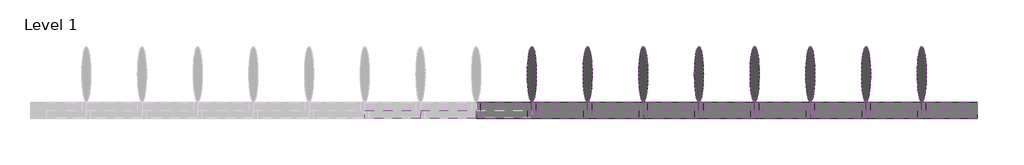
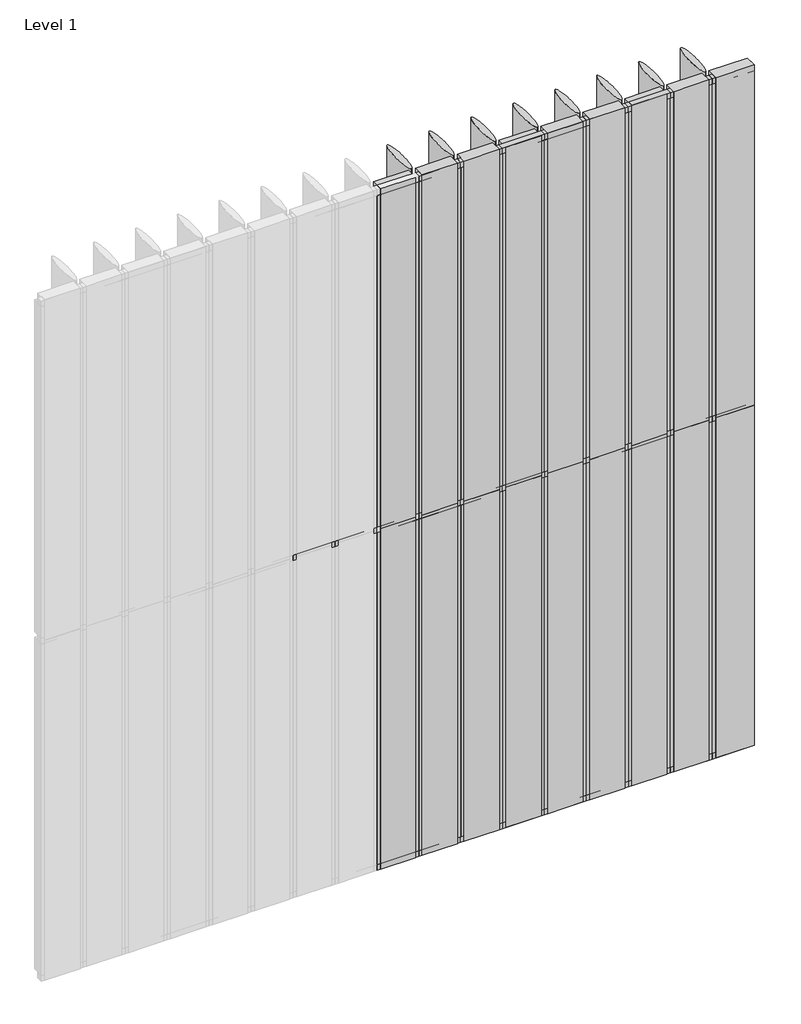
# One storey, part 2 of 2: 43 members, 36 plates.
"""IFC4 building model written with IfcOpenShell, lengths in millimetres."""

from ifc_helpers import new_model, si_unit, origin, place, context, project, spatial, transform, mapped, element, save
from components import rectangular_mullion_7b7f291e, rectangular_mullion_98250b89, rectangular_mullion_795f5a7c, rectangular_mullion_94c598e1, empty_system_panel_empty_f688b100, empty_system_panel_empty_d6a9d873, empty_system_panel_empty_5c88f992

model = new_model("IFC4")

# Units and contexts
model_context = context("Model", 3, world=origin())
ifc_project = project(units=[si_unit("LENGTHUNIT", "METRE", prefix="MILLI")], contexts=[model_context])

# Site, building, storey
site = spatial("IfcSite", under=ifc_project)
building = spatial("IfcBuilding", under=site)
storey = spatial("IfcBuildingStorey", under=building, Name="Level 1", Elevation=0.0)

# Members
placement = place(None, origin())
rectangular_mullion_shape = rectangular_mullion_7b7f291e(model_context)
element("IfcMember", 1, ObjectType="Rectangular Mullion : RSen_21_CWM_blade - 350 ellips - 0°_gen_duco projects", at=placement, inside=storey, context=model_context, shape_type="MappedRepresentation", body=[
    mapped(rectangular_mullion_shape, transform((5650.0, 3000.0, 0.0), x_axis=(-1.0, 0.0, 0.0), y_axis=(0.0, 1.0, 0.0), z_axis=(0.0, 0.0, -1.0))),
])
element("IfcMember", 2, ObjectType="Rectangular Mullion : RSen_21_CWM_blade - 350 ellips - 0°_gen_duco projects", at=placement, inside=storey, context=model_context, shape_type="MappedRepresentation", body=[
    mapped(rectangular_mullion_shape, transform((5300.0, 3000.0, 0.0), x_axis=(-1.0, 0.0, 0.0), y_axis=(0.0, 1.0, 0.0), z_axis=(0.0, 0.0, -1.0))),
])
element("IfcMember", 3, ObjectType="Rectangular Mullion : RSen_21_CWM_blade - 350 ellips - 0°_gen_duco projects", at=placement, inside=storey, context=model_context, shape_type="MappedRepresentation", body=[
    mapped(rectangular_mullion_shape, transform((4950.0, 3000.0, 0.0), x_axis=(-1.0, 0.0, 0.0), y_axis=(0.0, 1.0, 0.0), z_axis=(0.0, 0.0, -1.0))),
])
element("IfcMember", 4, ObjectType="Rectangular Mullion : RSen_21_CWM_blade - 350 ellips - 0°_gen_duco projects", at=placement, inside=storey, context=model_context, shape_type="MappedRepresentation", body=[
    mapped(rectangular_mullion_shape, transform((4600.0, 3000.0, 0.0), x_axis=(-1.0, 0.0, 0.0), y_axis=(0.0, 1.0, 0.0), z_axis=(0.0, 0.0, -1.0))),
])
element("IfcMember", 5, ObjectType="Rectangular Mullion : RSen_21_CWM_blade - 350 ellips - 0°_gen_duco projects", at=placement, inside=storey, context=model_context, shape_type="MappedRepresentation", body=[
    mapped(rectangular_mullion_shape, transform((4250.0, 3000.0, 0.0), x_axis=(-1.0, 0.0, 0.0), y_axis=(0.0, 1.0, 0.0), z_axis=(0.0, 0.0, -1.0))),
])
element("IfcMember", 6, ObjectType="Rectangular Mullion : RSen_21_CWM_blade - 350 ellips - 0°_gen_duco projects", at=placement, inside=storey, context=model_context, shape_type="MappedRepresentation", body=[
    mapped(rectangular_mullion_shape, transform((3900.0, 3000.0, 0.0), x_axis=(-1.0, 0.0, 0.0), y_axis=(0.0, 1.0, 0.0), z_axis=(0.0, 0.0, -1.0))),
])
element("IfcMember", 7, ObjectType="Rectangular Mullion : RSen_21_CWM_blade - 350 ellips - 0°_gen_duco projects", at=placement, inside=storey, context=model_context, shape_type="MappedRepresentation", body=[
    mapped(rectangular_mullion_shape, transform((3550.0, 3000.0, 0.0), x_axis=(-1.0, 0.0, 0.0), y_axis=(0.0, 1.0, 0.0), z_axis=(0.0, 0.0, -1.0))),
])
element("IfcMember", 8, ObjectType="Rectangular Mullion : RSen_21_CWM_blade - 350 ellips - 0°_gen_duco projects", at=placement, inside=storey, context=model_context, shape_type="MappedRepresentation", body=[
    mapped(rectangular_mullion_shape, transform((3200.0, 3000.0, 0.0), x_axis=(-1.0, 0.0, 0.0), y_axis=(0.0, 1.0, 0.0), z_axis=(0.0, 0.0, -1.0))),
])
element("IfcMember", 9, ObjectType="Rectangular Mullion : RSen_21_CWM_blade - 350 ellips - 0°_gen_duco projects", at=placement, inside=storey, context=model_context, shape_type="MappedRepresentation", body=[
    mapped(rectangular_mullion_shape, transform((5650.0, 3000.0, 3000.0), x_axis=(-1.0, 0.0, 0.0), y_axis=(0.0, 1.0, 0.0), z_axis=(0.0, 0.0, -1.0))),
])
element("IfcMember", 10, ObjectType="Rectangular Mullion : RSen_21_CWM_blade - 350 ellips - 0°_gen_duco projects", at=placement, inside=storey, context=model_context, shape_type="MappedRepresentation", body=[
    mapped(rectangular_mullion_shape, transform((5300.0, 3000.0, 3000.0), x_axis=(-1.0, 0.0, 0.0), y_axis=(0.0, 1.0, 0.0), z_axis=(0.0, 0.0, -1.0))),
])
element("IfcMember", 11, ObjectType="Rectangular Mullion : RSen_21_CWM_blade - 350 ellips - 0°_gen_duco projects", at=placement, inside=storey, context=model_context, shape_type="MappedRepresentation", body=[
    mapped(rectangular_mullion_shape, transform((4950.0, 3000.0, 3000.0), x_axis=(-1.0, 0.0, 0.0), y_axis=(0.0, 1.0, 0.0), z_axis=(0.0, 0.0, -1.0))),
])
element("IfcMember", 12, ObjectType="Rectangular Mullion : RSen_21_CWM_blade - 350 ellips - 0°_gen_duco projects", at=placement, inside=storey, context=model_context, shape_type="MappedRepresentation", body=[
    mapped(rectangular_mullion_shape, transform((4600.0, 3000.0, 3000.0), x_axis=(-1.0, 0.0, 0.0), y_axis=(0.0, 1.0, 0.0), z_axis=(0.0, 0.0, -1.0))),
])
element("IfcMember", 13, ObjectType="Rectangular Mullion : RSen_21_CWM_blade - 350 ellips - 0°_gen_duco projects", at=placement, inside=storey, context=model_context, shape_type="MappedRepresentation", body=[
    mapped(rectangular_mullion_shape, transform((4250.0, 3000.0, 3000.0), x_axis=(-1.0, 0.0, 0.0), y_axis=(0.0, 1.0, 0.0), z_axis=(0.0, 0.0, -1.0))),
])
element("IfcMember", 14, ObjectType="Rectangular Mullion : RSen_21_CWM_blade - 350 ellips - 0°_gen_duco projects", at=placement, inside=storey, context=model_context, shape_type="MappedRepresentation", body=[
    mapped(rectangular_mullion_shape, transform((3900.0, 3000.0, 3000.0), x_axis=(-1.0, 0.0, 0.0), y_axis=(0.0, 1.0, 0.0), z_axis=(0.0, 0.0, -1.0))),
])
element("IfcMember", 15, ObjectType="Rectangular Mullion : RSen_21_CWM_blade - 350 ellips - 0°_gen_duco projects", at=placement, inside=storey, context=model_context, shape_type="MappedRepresentation", body=[
    mapped(rectangular_mullion_shape, transform((3550.0, 3000.0, 3000.0), x_axis=(-1.0, 0.0, 0.0), y_axis=(0.0, 1.0, 0.0), z_axis=(0.0, 0.0, -1.0))),
])
element("IfcMember", 16, ObjectType="Rectangular Mullion : RSen_21_CWM_blade - 350 ellips - 0°_gen_duco projects", at=placement, inside=storey, context=model_context, shape_type="MappedRepresentation", body=[
    mapped(rectangular_mullion_shape, transform((3200.0, 3000.0, 3000.0), x_axis=(-1.0, 0.0, 0.0), y_axis=(0.0, 1.0, 0.0), z_axis=(0.0, 0.0, -1.0))),
])
rectangular_mullion_2_shape = rectangular_mullion_98250b89(model_context)
element("IfcMember", 17, ObjectType="Rectangular Mullion : RSen_21_CWM_support profile 50x50 - right_gen_duco projects", at=placement, inside=storey, context=model_context, shape_type="MappedRepresentation", body=[
    mapped(rectangular_mullion_2_shape, transform((6000.0, 3000.0, 0.0), x_axis=(0.0, 0.0, -1.0), y_axis=(0.0, 1.0, 0.0), z_axis=(1.0, 0.0, 0.0))),
])
rectangular_mullion_3_shape = rectangular_mullion_795f5a7c(model_context)
element("IfcMember", 18, ObjectType="Rectangular Mullion : RSen_21_CWM_support profile 50x50 - left_gen_duco projects", at=placement, inside=storey, context=model_context, shape_type="MappedRepresentation", body=[
    mapped(rectangular_mullion_3_shape, transform((5650.0, 3000.0, 6000.0), x_axis=(0.0, 0.0, 1.0), y_axis=(0.0, 1.0, 0.0), z_axis=(-1.0, 0.0, 0.0))),
])
element("IfcMember", 19, ObjectType="Rectangular Mullion : RSen_21_CWM_support profile 50x50 - left_gen_duco projects", at=placement, inside=storey, context=model_context, shape_type="MappedRepresentation", body=[
    mapped(rectangular_mullion_3_shape, transform((5300.0, 3000.0, 6000.0), x_axis=(0.0, 0.0, 1.0), y_axis=(0.0, 1.0, 0.0), z_axis=(-1.0, 0.0, 0.0))),
])
element("IfcMember", 20, ObjectType="Rectangular Mullion : RSen_21_CWM_support profile 50x50 - left_gen_duco projects", at=placement, inside=storey, context=model_context, shape_type="MappedRepresentation", body=[
    mapped(rectangular_mullion_3_shape, transform((4950.0, 3000.0, 6000.0), x_axis=(0.0, 0.0, 1.0), y_axis=(0.0, 1.0, 0.0), z_axis=(-1.0, 0.0, 0.0))),
])
element("IfcMember", 21, ObjectType="Rectangular Mullion : RSen_21_CWM_support profile 50x50 - left_gen_duco projects", at=placement, inside=storey, context=model_context, shape_type="MappedRepresentation", body=[
    mapped(rectangular_mullion_3_shape, transform((4600.0, 3000.0, 6000.0), x_axis=(0.0, 0.0, 1.0), y_axis=(0.0, 1.0, 0.0), z_axis=(-1.0, 0.0, 0.0))),
])
element("IfcMember", 22, ObjectType="Rectangular Mullion : RSen_21_CWM_support profile 50x50 - left_gen_duco projects", at=placement, inside=storey, context=model_context, shape_type="MappedRepresentation", body=[
    mapped(rectangular_mullion_3_shape, transform((4250.0, 3000.0, 6000.0), x_axis=(0.0, 0.0, 1.0), y_axis=(0.0, 1.0, 0.0), z_axis=(-1.0, 0.0, 0.0))),
])
element("IfcMember", 23, ObjectType="Rectangular Mullion : RSen_21_CWM_support profile 50x50 - left_gen_duco projects", at=placement, inside=storey, context=model_context, shape_type="MappedRepresentation", body=[
    mapped(rectangular_mullion_3_shape, transform((3900.0, 3000.0, 6000.0), x_axis=(0.0, 0.0, 1.0), y_axis=(0.0, 1.0, 0.0), z_axis=(-1.0, 0.0, 0.0))),
])
element("IfcMember", 24, ObjectType="Rectangular Mullion : RSen_21_CWM_support profile 50x50 - left_gen_duco projects", at=placement, inside=storey, context=model_context, shape_type="MappedRepresentation", body=[
    mapped(rectangular_mullion_3_shape, transform((3550.0, 3000.0, 6000.0), x_axis=(0.0, 0.0, 1.0), y_axis=(0.0, 1.0, 0.0), z_axis=(-1.0, 0.0, 0.0))),
])
element("IfcMember", 25, ObjectType="Rectangular Mullion : RSen_21_CWM_support profile 50x50 - left_gen_duco projects", at=placement, inside=storey, context=model_context, shape_type="MappedRepresentation", body=[
    mapped(rectangular_mullion_3_shape, transform((3200.0, 3000.0, 6000.0), x_axis=(0.0, 0.0, 1.0), y_axis=(0.0, 1.0, 0.0), z_axis=(-1.0, 0.0, 0.0))),
])
element("IfcMember", 26, ObjectType="Rectangular Mullion : RSen_21_CWM_support profile 50x50 - right_gen_duco projects", at=placement, inside=storey, context=model_context, shape_type="MappedRepresentation", body=[
    mapped(rectangular_mullion_2_shape, transform((5650.0, 3000.0, 0.0), x_axis=(0.0, 0.0, -1.0), y_axis=(0.0, 1.0, 0.0), z_axis=(1.0, 0.0, 0.0))),
])
element("IfcMember", 27, ObjectType="Rectangular Mullion : RSen_21_CWM_support profile 50x50 - right_gen_duco projects", at=placement, inside=storey, context=model_context, shape_type="MappedRepresentation", body=[
    mapped(rectangular_mullion_2_shape, transform((5300.0, 3000.0, 0.0), x_axis=(0.0, 0.0, -1.0), y_axis=(0.0, 1.0, 0.0), z_axis=(1.0, 0.0, 0.0))),
])
element("IfcMember", 28, ObjectType="Rectangular Mullion : RSen_21_CWM_support profile 50x50 - right_gen_duco projects", at=placement, inside=storey, context=model_context, shape_type="MappedRepresentation", body=[
    mapped(rectangular_mullion_2_shape, transform((4950.0, 3000.0, 0.0), x_axis=(0.0, 0.0, -1.0), y_axis=(0.0, 1.0, 0.0), z_axis=(1.0, 0.0, 0.0))),
])
element("IfcMember", 29, ObjectType="Rectangular Mullion : RSen_21_CWM_support profile 50x50 - right_gen_duco projects", at=placement, inside=storey, context=model_context, shape_type="MappedRepresentation", body=[
    mapped(rectangular_mullion_2_shape, transform((4600.0, 3000.0, 0.0), x_axis=(0.0, 0.0, -1.0), y_axis=(0.0, 1.0, 0.0), z_axis=(1.0, 0.0, 0.0))),
])
element("IfcMember", 30, ObjectType="Rectangular Mullion : RSen_21_CWM_support profile 50x50 - right_gen_duco projects", at=placement, inside=storey, context=model_context, shape_type="MappedRepresentation", body=[
    mapped(rectangular_mullion_2_shape, transform((4250.0, 3000.0, 0.0), x_axis=(0.0, 0.0, -1.0), y_axis=(0.0, 1.0, 0.0), z_axis=(1.0, 0.0, 0.0))),
])
element("IfcMember", 31, ObjectType="Rectangular Mullion : RSen_21_CWM_support profile 50x50 - right_gen_duco projects", at=placement, inside=storey, context=model_context, shape_type="MappedRepresentation", body=[
    mapped(rectangular_mullion_2_shape, transform((3900.0, 3000.0, 0.0), x_axis=(0.0, 0.0, -1.0), y_axis=(0.0, 1.0, 0.0), z_axis=(1.0, 0.0, 0.0))),
])
element("IfcMember", 32, ObjectType="Rectangular Mullion : RSen_21_CWM_support profile 50x50 - right_gen_duco projects", at=placement, inside=storey, context=model_context, shape_type="MappedRepresentation", body=[
    mapped(rectangular_mullion_2_shape, transform((3550.0, 3000.0, 0.0), x_axis=(0.0, 0.0, -1.0), y_axis=(0.0, 1.0, 0.0), z_axis=(1.0, 0.0, 0.0))),
])
element("IfcMember", 33, ObjectType="Rectangular Mullion : RSen_21_CWM_support profile 50x50 - right_gen_duco projects", at=placement, inside=storey, context=model_context, shape_type="MappedRepresentation", body=[
    mapped(rectangular_mullion_2_shape, transform((3200.0, 3000.0, 0.0), x_axis=(0.0, 0.0, -1.0), y_axis=(0.0, 1.0, 0.0), z_axis=(1.0, 0.0, 0.0))),
])
rectangular_mullion_4_shape = rectangular_mullion_94c598e1(model_context)
element("IfcMember", 34, ObjectType="Rectangular Mullion : RSen_21_CWM_support profile 50x50_gen_duco projects", at=placement, inside=storey, context=model_context, shape_type="MappedRepresentation", body=[
    mapped(rectangular_mullion_4_shape, transform((5650.0, 3000.0, 3000.0), x_axis=(0.0, 0.0, 1.0), y_axis=(0.0, 1.0, 0.0), z_axis=(-1.0, 0.0, 0.0))),
])
element("IfcMember", 35, ObjectType="Rectangular Mullion : RSen_21_CWM_support profile 50x50_gen_duco projects", at=placement, inside=storey, context=model_context, shape_type="MappedRepresentation", body=[
    mapped(rectangular_mullion_4_shape, transform((5300.0, 3000.0, 3000.0), x_axis=(0.0, 0.0, 1.0), y_axis=(0.0, 1.0, 0.0), z_axis=(-1.0, 0.0, 0.0))),
])
element("IfcMember", 36, ObjectType="Rectangular Mullion : RSen_21_CWM_support profile 50x50_gen_duco projects", at=placement, inside=storey, context=model_context, shape_type="MappedRepresentation", body=[
    mapped(rectangular_mullion_4_shape, transform((4950.0, 3000.0, 3000.0), x_axis=(0.0, 0.0, 1.0), y_axis=(0.0, 1.0, 0.0), z_axis=(-1.0, 0.0, 0.0))),
])
element("IfcMember", 37, ObjectType="Rectangular Mullion : RSen_21_CWM_support profile 50x50_gen_duco projects", at=placement, inside=storey, context=model_context, shape_type="MappedRepresentation", body=[
    mapped(rectangular_mullion_4_shape, transform((4600.0, 3000.0, 3000.0), x_axis=(0.0, 0.0, 1.0), y_axis=(0.0, 1.0, 0.0), z_axis=(-1.0, 0.0, 0.0))),
])
element("IfcMember", 38, ObjectType="Rectangular Mullion : RSen_21_CWM_support profile 50x50_gen_duco projects", at=placement, inside=storey, context=model_context, shape_type="MappedRepresentation", body=[
    mapped(rectangular_mullion_4_shape, transform((4250.0, 3000.0, 3000.0), x_axis=(0.0, 0.0, 1.0), y_axis=(0.0, 1.0, 0.0), z_axis=(-1.0, 0.0, 0.0))),
])
element("IfcMember", 39, ObjectType="Rectangular Mullion : RSen_21_CWM_support profile 50x50_gen_duco projects", at=placement, inside=storey, context=model_context, shape_type="MappedRepresentation", body=[
    mapped(rectangular_mullion_4_shape, transform((3900.0, 3000.0, 3000.0), x_axis=(0.0, 0.0, 1.0), y_axis=(0.0, 1.0, 0.0), z_axis=(-1.0, 0.0, 0.0))),
])
element("IfcMember", 40, ObjectType="Rectangular Mullion : RSen_21_CWM_support profile 50x50_gen_duco projects", at=placement, inside=storey, context=model_context, shape_type="MappedRepresentation", body=[
    mapped(rectangular_mullion_4_shape, transform((3550.0, 3000.0, 3000.0), x_axis=(0.0, 0.0, 1.0), y_axis=(0.0, 1.0, 0.0), z_axis=(-1.0, 0.0, 0.0))),
])
element("IfcMember", 41, ObjectType="Rectangular Mullion : RSen_21_CWM_support profile 50x50_gen_duco projects", at=placement, inside=storey, context=model_context, shape_type="MappedRepresentation", body=[
    mapped(rectangular_mullion_4_shape, transform((3200.0, 3000.0, 3000.0), x_axis=(0.0, 0.0, 1.0), y_axis=(0.0, 1.0, 0.0), z_axis=(-1.0, 0.0, 0.0))),
])
element("IfcMember", 42, ObjectType="Rectangular Mullion : RSen_21_CWM_support profile 50x50_gen_duco projects", at=placement, inside=storey, context=model_context, shape_type="MappedRepresentation", body=[
    mapped(rectangular_mullion_4_shape, transform((2500.0, 3000.0, 3000.0), x_axis=(0.0, 0.0, 1.0), y_axis=(0.0, 1.0, 0.0), z_axis=(-1.0, 0.0, 0.0))),
])
element("IfcMember", 43, ObjectType="Rectangular Mullion : RSen_21_CWM_support profile 50x50_gen_duco projects", at=placement, inside=storey, context=model_context, shape_type="MappedRepresentation", body=[
    mapped(rectangular_mullion_4_shape, transform((2150.0, 3000.0, 3000.0), x_axis=(0.0, 0.0, 1.0), y_axis=(0.0, 1.0, 0.0), z_axis=(-1.0, 0.0, 0.0))),
])

# Plates
empty_system_panel_empty_shape = empty_system_panel_empty_f688b100(model_context)
element("IfcPlate", 44, ObjectType="Empty System Panel : Empty", at=placement, inside=storey, context=model_context, shape_type="MappedRepresentation", body=[
    mapped(empty_system_panel_empty_shape, transform((5839.25, 3000.0, 0.0), x_axis=(-1.0, 0.0, 0.0), y_axis=(0.0, -1.0, 0.0), z_axis=(0.0, 0.0, 1.0))),
])
element("IfcPlate", 45, ObjectType="Empty System Panel : Empty", at=placement, inside=storey, context=model_context, shape_type="MappedRepresentation", body=[
    mapped(empty_system_panel_empty_shape, transform((5839.25, 3000.0, 3000.0), x_axis=(-1.0, 0.0, 0.0), y_axis=(0.0, -1.0, 0.0), z_axis=(0.0, 0.0, 1.0))),
])
empty_system_panel_empty_2_shape = empty_system_panel_empty_d6a9d873(model_context)
element("IfcPlate", 46, ObjectType="Empty System Panel : Empty", at=placement, inside=storey, context=model_context, shape_type="MappedRepresentation", body=[
    mapped(empty_system_panel_empty_2_shape, transform((5475.0, 3000.0, 0.0), x_axis=(-1.0, 0.0, 0.0), y_axis=(0.0, -1.0, 0.0), z_axis=(0.0, 0.0, 1.0))),
])
element("IfcPlate", 47, ObjectType="Empty System Panel : Empty", at=placement, inside=storey, context=model_context, shape_type="MappedRepresentation", body=[
    mapped(empty_system_panel_empty_2_shape, transform((5125.0, 3000.0, 0.0), x_axis=(-1.0, 0.0, 0.0), y_axis=(0.0, -1.0, 0.0), z_axis=(0.0, 0.0, 1.0))),
])
element("IfcPlate", 48, ObjectType="Empty System Panel : Empty", at=placement, inside=storey, context=model_context, shape_type="MappedRepresentation", body=[
    mapped(empty_system_panel_empty_2_shape, transform((4775.0, 3000.0, 0.0), x_axis=(-1.0, 0.0, 0.0), y_axis=(0.0, -1.0, 0.0), z_axis=(0.0, 0.0, 1.0))),
])
element("IfcPlate", 49, ObjectType="Empty System Panel : Empty", at=placement, inside=storey, context=model_context, shape_type="MappedRepresentation", body=[
    mapped(empty_system_panel_empty_2_shape, transform((4425.0, 3000.0, 0.0), x_axis=(-1.0, 0.0, 0.0), y_axis=(0.0, -1.0, 0.0), z_axis=(0.0, 0.0, 1.0))),
])
element("IfcPlate", 50, ObjectType="Empty System Panel : Empty", at=placement, inside=storey, context=model_context, shape_type="MappedRepresentation", body=[
    mapped(empty_system_panel_empty_2_shape, transform((4075.0, 3000.0, 0.0), x_axis=(-1.0, 0.0, 0.0), y_axis=(0.0, -1.0, 0.0), z_axis=(0.0, 0.0, 1.0))),
])
element("IfcPlate", 51, ObjectType="Empty System Panel : Empty", at=placement, inside=storey, context=model_context, shape_type="MappedRepresentation", body=[
    mapped(empty_system_panel_empty_2_shape, transform((3725.0, 3000.0, 0.0), x_axis=(-1.0, 0.0, 0.0), y_axis=(0.0, -1.0, 0.0), z_axis=(0.0, 0.0, 1.0))),
])
element("IfcPlate", 52, ObjectType="Empty System Panel : Empty", at=placement, inside=storey, context=model_context, shape_type="MappedRepresentation", body=[
    mapped(empty_system_panel_empty_2_shape, transform((3375.0, 3000.0, 0.0), x_axis=(-1.0, 0.0, 0.0), y_axis=(0.0, -1.0, 0.0), z_axis=(0.0, 0.0, 1.0))),
])
element("IfcPlate", 53, ObjectType="Empty System Panel : Empty", at=placement, inside=storey, context=model_context, shape_type="MappedRepresentation", body=[
    mapped(empty_system_panel_empty_2_shape, transform((3025.0, 3000.0, 0.0), x_axis=(-1.0, 0.0, 0.0), y_axis=(0.0, -1.0, 0.0), z_axis=(0.0, 0.0, 1.0))),
])
element("IfcPlate", 54, ObjectType="Empty System Panel : Empty", at=placement, inside=storey, context=model_context, shape_type="MappedRepresentation", body=[
    mapped(empty_system_panel_empty_2_shape, transform((5475.0, 3000.0, 3000.0), x_axis=(-1.0, 0.0, 0.0), y_axis=(0.0, -1.0, 0.0), z_axis=(0.0, 0.0, 1.0))),
])
element("IfcPlate", 55, ObjectType="Empty System Panel : Empty", at=placement, inside=storey, context=model_context, shape_type="MappedRepresentation", body=[
    mapped(empty_system_panel_empty_2_shape, transform((5125.0, 3000.0, 3000.0), x_axis=(-1.0, 0.0, 0.0), y_axis=(0.0, -1.0, 0.0), z_axis=(0.0, 0.0, 1.0))),
])
element("IfcPlate", 56, ObjectType="Empty System Panel : Empty", at=placement, inside=storey, context=model_context, shape_type="MappedRepresentation", body=[
    mapped(empty_system_panel_empty_2_shape, transform((4775.0, 3000.0, 3000.0), x_axis=(-1.0, 0.0, 0.0), y_axis=(0.0, -1.0, 0.0), z_axis=(0.0, 0.0, 1.0))),
])
element("IfcPlate", 57, ObjectType="Empty System Panel : Empty", at=placement, inside=storey, context=model_context, shape_type="MappedRepresentation", body=[
    mapped(empty_system_panel_empty_2_shape, transform((4425.0, 3000.0, 3000.0), x_axis=(-1.0, 0.0, 0.0), y_axis=(0.0, -1.0, 0.0), z_axis=(0.0, 0.0, 1.0))),
])
element("IfcPlate", 58, ObjectType="Empty System Panel : Empty", at=placement, inside=storey, context=model_context, shape_type="MappedRepresentation", body=[
    mapped(empty_system_panel_empty_2_shape, transform((4075.0, 3000.0, 3000.0), x_axis=(-1.0, 0.0, 0.0), y_axis=(0.0, -1.0, 0.0), z_axis=(0.0, 0.0, 1.0))),
])
element("IfcPlate", 59, ObjectType="Empty System Panel : Empty", at=placement, inside=storey, context=model_context, shape_type="MappedRepresentation", body=[
    mapped(empty_system_panel_empty_2_shape, transform((3725.0, 3000.0, 3000.0), x_axis=(-1.0, 0.0, 0.0), y_axis=(0.0, -1.0, 0.0), z_axis=(0.0, 0.0, 1.0))),
])
element("IfcPlate", 60, ObjectType="Empty System Panel : Empty", at=placement, inside=storey, context=model_context, shape_type="MappedRepresentation", body=[
    mapped(empty_system_panel_empty_2_shape, transform((3375.0, 3000.0, 3000.0), x_axis=(-1.0, 0.0, 0.0), y_axis=(0.0, -1.0, 0.0), z_axis=(0.0, 0.0, 1.0))),
])
element("IfcPlate", 61, ObjectType="Empty System Panel : Empty", at=placement, inside=storey, context=model_context, shape_type="MappedRepresentation", body=[
    mapped(empty_system_panel_empty_2_shape, transform((3025.0, 3000.0, 3000.0), x_axis=(-1.0, 0.0, 0.0), y_axis=(0.0, -1.0, 0.0), z_axis=(0.0, 0.0, 1.0))),
])
empty_system_panel_empty_3_shape = empty_system_panel_empty_5c88f992(model_context)
element("IfcPlate", 62, ObjectType="Empty System Panel : Empty", at=placement, inside=storey, context=model_context, shape_type="MappedRepresentation", body=[
    mapped(empty_system_panel_empty_3_shape, transform((5825.0, 3000.0, 50.0), x_axis=(-1.0, 0.0, 0.0), y_axis=(0.0, -1.0, 0.0), z_axis=(0.0, 0.0, 1.0))),
])
element("IfcPlate", 63, ObjectType="Empty System Panel : Empty", at=placement, inside=storey, context=model_context, shape_type="MappedRepresentation", body=[
    mapped(empty_system_panel_empty_3_shape, transform((5475.0, 3000.0, 50.0), x_axis=(-1.0, 0.0, 0.0), y_axis=(0.0, -1.0, 0.0), z_axis=(0.0, 0.0, 1.0))),
])
element("IfcPlate", 64, ObjectType="Empty System Panel : Empty", at=placement, inside=storey, context=model_context, shape_type="MappedRepresentation", body=[
    mapped(empty_system_panel_empty_3_shape, transform((5125.0, 3000.0, 50.0), x_axis=(-1.0, 0.0, 0.0), y_axis=(0.0, -1.0, 0.0), z_axis=(0.0, 0.0, 1.0))),
])
element("IfcPlate", 65, ObjectType="Empty System Panel : Empty", at=placement, inside=storey, context=model_context, shape_type="MappedRepresentation", body=[
    mapped(empty_system_panel_empty_3_shape, transform((4775.0, 3000.0, 50.0), x_axis=(-1.0, 0.0, 0.0), y_axis=(0.0, -1.0, 0.0), z_axis=(0.0, 0.0, 1.0))),
])
element("IfcPlate", 66, ObjectType="Empty System Panel : Empty", at=placement, inside=storey, context=model_context, shape_type="MappedRepresentation", body=[
    mapped(empty_system_panel_empty_3_shape, transform((4425.0, 3000.0, 50.0), x_axis=(-1.0, 0.0, 0.0), y_axis=(0.0, -1.0, 0.0), z_axis=(0.0, 0.0, 1.0))),
])
element("IfcPlate", 67, ObjectType="Empty System Panel : Empty", at=placement, inside=storey, context=model_context, shape_type="MappedRepresentation", body=[
    mapped(empty_system_panel_empty_3_shape, transform((4075.0, 3000.0, 50.0), x_axis=(-1.0, 0.0, 0.0), y_axis=(0.0, -1.0, 0.0), z_axis=(0.0, 0.0, 1.0))),
])
element("IfcPlate", 68, ObjectType="Empty System Panel : Empty", at=placement, inside=storey, context=model_context, shape_type="MappedRepresentation", body=[
    mapped(empty_system_panel_empty_3_shape, transform((3725.0, 3000.0, 50.0), x_axis=(-1.0, 0.0, 0.0), y_axis=(0.0, -1.0, 0.0), z_axis=(0.0, 0.0, 1.0))),
])
element("IfcPlate", 69, ObjectType="Empty System Panel : Empty", at=placement, inside=storey, context=model_context, shape_type="MappedRepresentation", body=[
    mapped(empty_system_panel_empty_3_shape, transform((3375.0, 3000.0, 50.0), x_axis=(-1.0, 0.0, 0.0), y_axis=(0.0, -1.0, 0.0), z_axis=(0.0, 0.0, 1.0))),
])
element("IfcPlate", 70, ObjectType="Empty System Panel : Empty", at=placement, inside=storey, context=model_context, shape_type="MappedRepresentation", body=[
    mapped(empty_system_panel_empty_3_shape, transform((3025.0, 3000.0, 50.0), x_axis=(-1.0, 0.0, 0.0), y_axis=(0.0, -1.0, 0.0), z_axis=(0.0, 0.0, 1.0))),
])
element("IfcPlate", 71, ObjectType="Empty System Panel : Empty", at=placement, inside=storey, context=model_context, shape_type="MappedRepresentation", body=[
    mapped(empty_system_panel_empty_3_shape, transform((5825.0, 3000.0, 3025.0), x_axis=(-1.0, 0.0, 0.0), y_axis=(0.0, -1.0, 0.0), z_axis=(0.0, 0.0, 1.0))),
])
element("IfcPlate", 72, ObjectType="Empty System Panel : Empty", at=placement, inside=storey, context=model_context, shape_type="MappedRepresentation", body=[
    mapped(empty_system_panel_empty_3_shape, transform((5475.0, 3000.0, 3025.0), x_axis=(-1.0, 0.0, 0.0), y_axis=(0.0, -1.0, 0.0), z_axis=(0.0, 0.0, 1.0))),
])
element("IfcPlate", 73, ObjectType="Empty System Panel : Empty", at=placement, inside=storey, context=model_context, shape_type="MappedRepresentation", body=[
    mapped(empty_system_panel_empty_3_shape, transform((5125.0, 3000.0, 3025.0), x_axis=(-1.0, 0.0, 0.0), y_axis=(0.0, -1.0, 0.0), z_axis=(0.0, 0.0, 1.0))),
])
element("IfcPlate", 74, ObjectType="Empty System Panel : Empty", at=placement, inside=storey, context=model_context, shape_type="MappedRepresentation", body=[
    mapped(empty_system_panel_empty_3_shape, transform((4775.0, 3000.0, 3025.0), x_axis=(-1.0, 0.0, 0.0), y_axis=(0.0, -1.0, 0.0), z_axis=(0.0, 0.0, 1.0))),
])
element("IfcPlate", 75, ObjectType="Empty System Panel : Empty", at=placement, inside=storey, context=model_context, shape_type="MappedRepresentation", body=[
    mapped(empty_system_panel_empty_3_shape, transform((4425.0, 3000.0, 3025.0), x_axis=(-1.0, 0.0, 0.0), y_axis=(0.0, -1.0, 0.0), z_axis=(0.0, 0.0, 1.0))),
])
element("IfcPlate", 76, ObjectType="Empty System Panel : Empty", at=placement, inside=storey, context=model_context, shape_type="MappedRepresentation", body=[
    mapped(empty_system_panel_empty_3_shape, transform((4075.0, 3000.0, 3025.0), x_axis=(-1.0, 0.0, 0.0), y_axis=(0.0, -1.0, 0.0), z_axis=(0.0, 0.0, 1.0))),
])
element("IfcPlate", 77, ObjectType="Empty System Panel : Empty", at=placement, inside=storey, context=model_context, shape_type="MappedRepresentation", body=[
    mapped(empty_system_panel_empty_3_shape, transform((3725.0, 3000.0, 3025.0), x_axis=(-1.0, 0.0, 0.0), y_axis=(0.0, -1.0, 0.0), z_axis=(0.0, 0.0, 1.0))),
])
element("IfcPlate", 78, ObjectType="Empty System Panel : Empty", at=placement, inside=storey, context=model_context, shape_type="MappedRepresentation", body=[
    mapped(empty_system_panel_empty_3_shape, transform((3375.0, 3000.0, 3025.0), x_axis=(-1.0, 0.0, 0.0), y_axis=(0.0, -1.0, 0.0), z_axis=(0.0, 0.0, 1.0))),
])
element("IfcPlate", 79, ObjectType="Empty System Panel : Empty", at=placement, inside=storey, context=model_context, shape_type="MappedRepresentation", body=[
    mapped(empty_system_panel_empty_3_shape, transform((3025.0, 3000.0, 3025.0), x_axis=(-1.0, 0.0, 0.0), y_axis=(0.0, -1.0, 0.0), z_axis=(0.0, 0.0, 1.0))),
])

save(model, "model.ifc")
